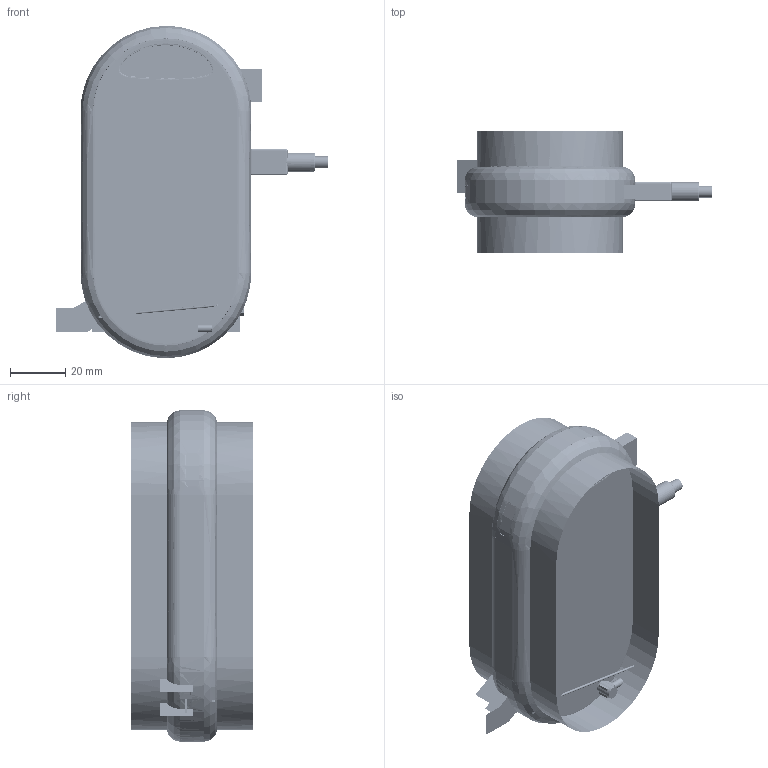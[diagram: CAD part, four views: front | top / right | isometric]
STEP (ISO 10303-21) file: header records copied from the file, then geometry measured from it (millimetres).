
FILE_DESCRIPTION((''),'2;1');
FILE_NAME('GTC01-MME01_ASM','2008-01-21T',('David'),('Black Rose Technology'),'PRO/ENGINEER BY PARAMETRIC TECHNOLOGY CORPORATION, 2007370','PRO/ENGINEER BY PARAMETRIC TECHNOLOGY CORPORATION, 2007370','');
FILE_SCHEMA(('CONFIG_CONTROL_DESIGN'));
Length unit declared in the file: millimetre
Products named in the file (120): CT0GPS-A-MPM1; LCM-28-SLIM-TOPPOLY; RTC-ML414R-F9A; BATTERY-1200MAH-WELLDONE; ANTENNA_PCB_COVER_ANY; _V_L_ANY; PATCH_DA15_ANY; GBSA-100A_ANY_ASM; _GBSA-100A; GBSA-100A_ASM; GPS-ANT-EXT-CONN; ANTENNA_PCB_ANY; GPS-ANTENNA-CIRO-15X15_ASM; GTC01-A-MSH01; CURV; ID-GTC-FRONT-PRE; ID-GTC-REAR-PRE; ID-GTC-MIDDLE-PRE; ID-GTC-STACKING; ID-GTC-LENS-PRE; ID-GTC-SPEAKER-DECO; ID-GTC-SD-COV; ID-GTC-USB-COV; BLACK; ID-GTC-FRONT-RING; ID-GTC-REAR-RING; ID-GTC-GPS-PRELIMINARY_ASM; MIC-D4-SMD-AAC; FPC-39P-HRS; RECEIVER-8X2-PHILIPS; SW-TACT; SPEAKER-16D-PSS; _2IN1_HINGE_ASM; SIM-MICROSD-ACON_ASM; VIBRATOR_2113TOP0; BATT-CONN-OCTEK-03JAX; PLUG-MINI-USB; GPS-ANT-EXT-MMCX-PLUG; GPS-ANT-EXT-PLUG-S; GPS-ANT-EXT-25109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
Assembly tree (144 placements, depth 7):
  GTC01-MME01_ASM
    CT0GPS-A-MSK1-0_ASM
      CT0GPS-A-MPM1
      LCM-28-SLIM-TOPPOLY
      RTC-ML414R-F9A
      BATTERY-1200MAH-WELLDONE
      GPS-ANTENNA-CIRO-15X15_ASM
        GBSA-100A_ASM
          GBSA-100A_ANY_ASM
            ANTENNA_PCB_COVER_ANY
            _V_L_ANY
            PATCH_DA15_ANY
          _GBSA-100A
        GPS-ANT-EXT-CONN
        ANTENNA_PCB_ANY
      GTC01-A-MSH01
      CURV
      ID-GTC-GPS-PRELIMINARY_ASM
        ID-GTC-FRONT-PRE
        ID-GTC-REAR-PRE
        ID-GTC-MIDDLE-PRE
        ID-GTC-STACKING
        ID-GTC-LENS-PRE
        ID-GTC-SPEAKER-DECO
        ID-GTC-SD-COV
        ID-GTC-USB-COV
        BLACK
        ID-GTC-FRONT-RING
        ID-GTC-REAR-RING
      MIC-D4-SMD-AAC
      FPC-39P-HRS  x2
      RECEIVER-8X2-PHILIPS
      SW-TACT  x2
      SPEAKER-16D-PSS  x2
      SIM-MICROSD-ACON_ASM
        _2IN1_HINGE_ASM
      VIBRATOR_2113TOP0
      BATT-CONN-OCTEK-03JAX
      PLUG-MINI-USB
      GPS-ANT-EXT-MMCX-PLUG
      GPS-ANT-EXT-PLUG-S
      GPS-ANT-EXT-25109
      GSM-ANT-BOTTOM
      PHONEJACK-TG286D
      MINIUSM-2UBMB01-SINGATRON-A
      GPS-ANT-CONN
      SPEAKER-AAC  x2
      GTC01-A-MCS01-RF_ASM
        GTC01-A-MCS01-RF-FRAME
        GTC01-A-MCS02-RF-COVER
      MM8430-2600B
      POGO-SPEAKER-NUCONN-P06_ASM  x2
        P06_ASM
          BTC-024_ANY_ASM
            POGO_PIN__W___ANY_ASM  x2
              PAD__W___ANY
              SPRING__W___ANY
              SOLDER__W___ANY
              PIN__W___ANY
            HOUSING__W___ANY
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Bounding box: 98.95 x 44.3 x 120.7 mm (x, y, z)
Volume: 300539.7 mm3; surface area: 702726.5 mm2
Topology: 251 solids, 449 shells, 21700 faces, 59867 edges, 38854 vertices
Faces by surface type: plane 14365, cylinder 4571, bspline 1278, cone 445, torus 403, sphere 329, extrusion 303, revolution 6
Entity records: 711330 total; most frequent: CARTESIAN_POINT 254211, ORIENTED_EDGE 97790, DIRECTION 87262, EDGE_CURVE 49936, VECTOR 35772, LINE 35532, VERTEX_POINT 32705, AXIS2_PLACEMENT_3D 25742
